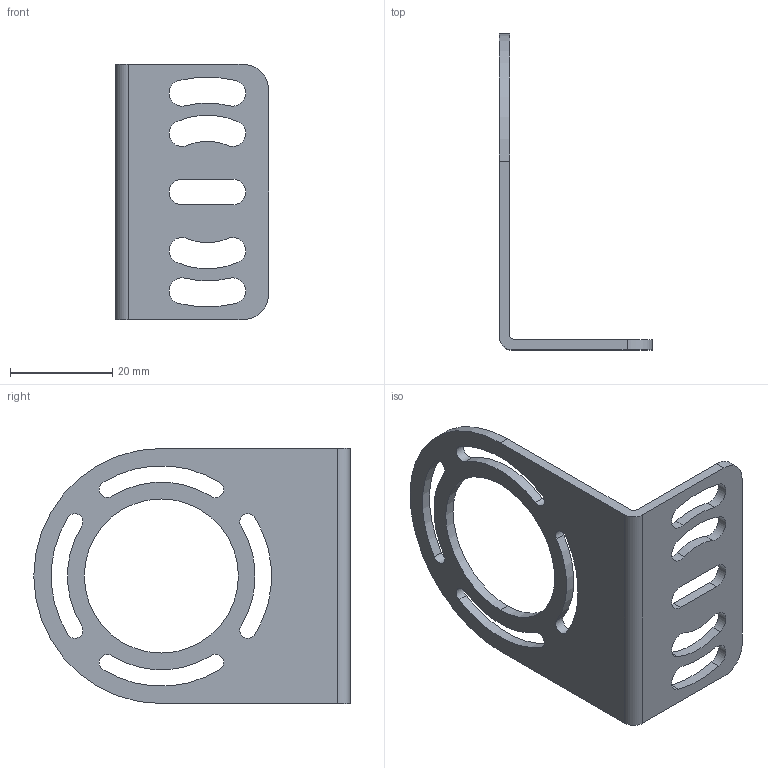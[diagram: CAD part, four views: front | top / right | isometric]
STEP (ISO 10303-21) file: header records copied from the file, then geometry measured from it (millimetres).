
FILE_DESCRIPTION((''),'2;1');
FILE_NAME('50MM_1','2021-11-12T',('僇僇'),(''),'CREO PARAMETRIC BY PTC INC, 2014500','CREO PARAMETRIC BY PTC INC, 2014500','');
FILE_SCHEMA(('CONFIG_CONTROL_DESIGN'));
Length unit declared in the file: millimetre
Products named in the file (1): 50MM_1
Bounding box: 30 x 62 x 50 mm (x, y, z)
Volume: 5602.4 mm3; surface area: 7078.5 mm2
Topology: 1 solids, 1 shells, 50 faces, 144 edges, 96 vertices
Faces by surface type: cylinder 41, plane 9
Entity records: 1768 total; most frequent: DIRECTION 326, CARTESIAN_POINT 290, ORIENTED_EDGE 288, EDGE_CURVE 144, AXIS2_PLACEMENT_3D 132, VERTEX_POINT 96, CIRCLE 82, EDGE_LOOP 70
